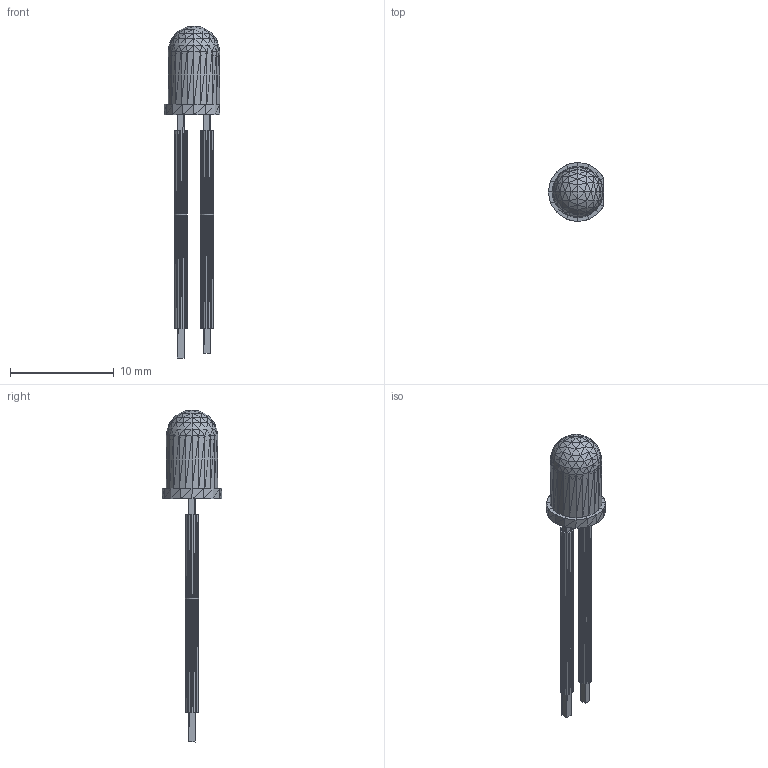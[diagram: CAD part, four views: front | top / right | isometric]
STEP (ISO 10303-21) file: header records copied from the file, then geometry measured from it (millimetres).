
FILE_DESCRIPTION(('HOOPS Exchange Step'),'2;1');
FILE_NAME('***.stp');
FILE_SCHEMA( ('AP242_MANAGED_MODEL_BASED_3D_ENGINEERING_MIM_LF {1 0 10303 442 1 1 4 }') );
Length unit declared in the file: inch
Products named in the file (9): LED1000MIL_2; LED1000MIL_3; LED1000MIL_4; LED1000MIL_5; LED1000MIL_6; LED1000MIL_7; LED1000MIL_8; LED1000MIL_9; LED1000MIL
Assembly tree (8 placements, depth 2):
  LED1000MIL
    LED1000MIL_2
    LED1000MIL_3
    LED1000MIL_4
    LED1000MIL_5
    LED1000MIL_6
    LED1000MIL_7
    LED1000MIL_8
    LED1000MIL_9
Bounding box: 5.35 x 5.72 x 32 mm (x, y, z)
Volume: 259.9 mm3; surface area: 571.2 mm2
Topology: 8 solids, 8 shells, 952 faces, 1428 edges, 492 vertices
Faces by surface type: plane 952
Entity records: 18990 total; most frequent: DIRECTION 3368, CARTESIAN_POINT 2890, ORIENTED_EDGE 2856, VECTOR 1428, LINE 1428, EDGE_CURVE 1428, AXIS2_PLACEMENT_3D 970, PLANE 952
